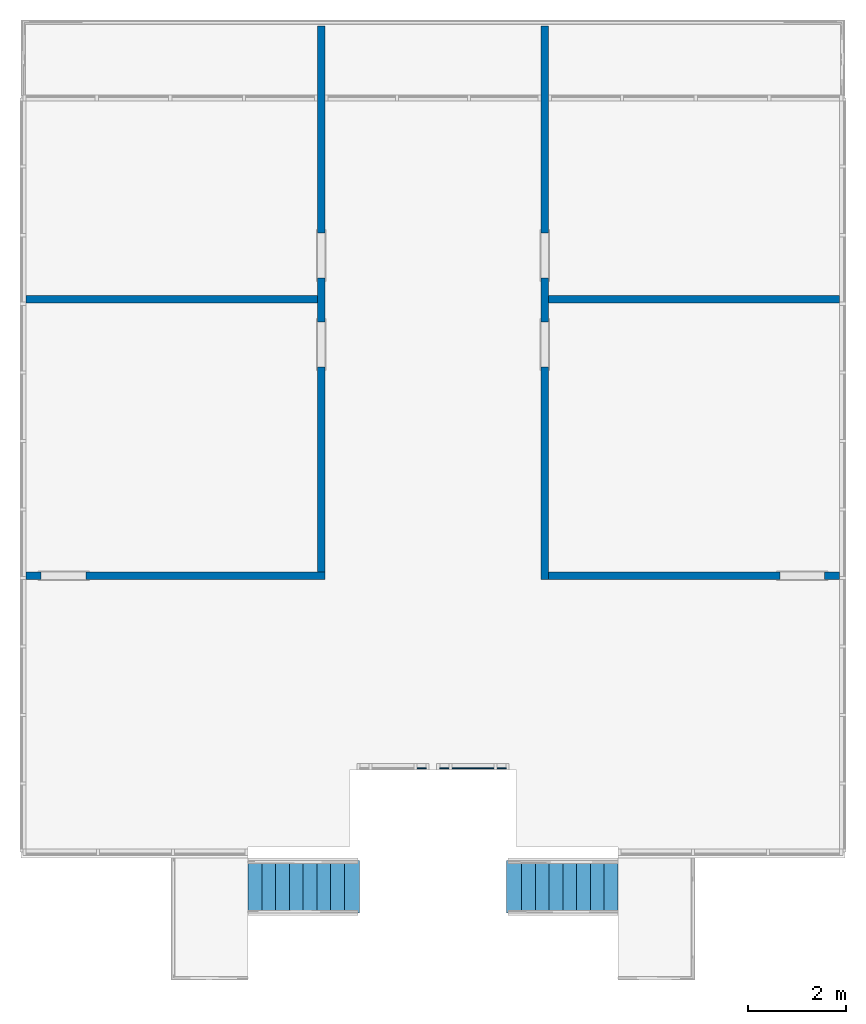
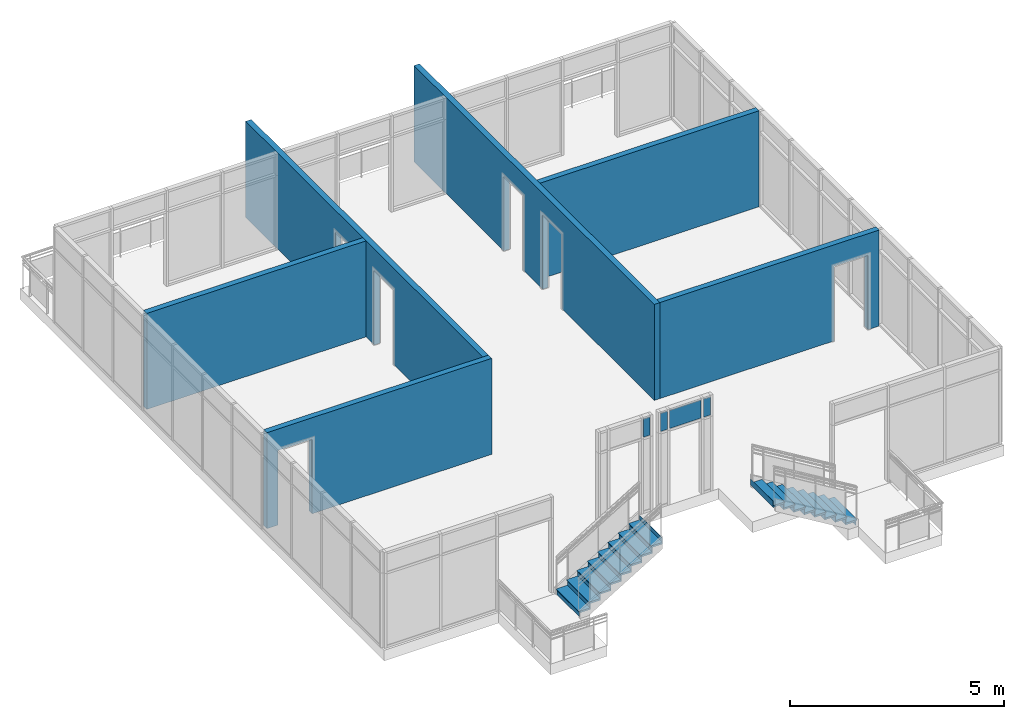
# One storey, part 7 of 11: 6 walls, 4 plates, 2 stair flights, 6 openings, 3 elements without a shape of their own.
"""IFC2X3 building model written with IfcOpenShell, lengths in feet."""

from ifc_helpers import new_model, entity, si_unit, converted_unit, derived_unit, direction, frame, frame_2d, origin, origin_2d_with_axis, place, context, subcontext, project, spatial, polyline, rectangle, outline, extrude, source, transform, mapped, material, layer, layer_set, layer_usage, type_object, type_shapes, element, aggregate, save


model = new_model("IFC2X3")

# Units and contexts
model_context = context("Model", 3, precision=0.0001, world=origin(), true_north=direction((6.12303176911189e-17, 1.0)))
body_context = subcontext(model_context, "Body", "Model", "MODEL_VIEW")
ifc_project = project(units=[converted_unit("LENGTHUNIT", "FOOT", entity("IfcRatioMeasure", 0.3048), si_unit("LENGTHUNIT", "METRE"), dimensions=[1, 0, 0, 0, 0, 0, 0]), converted_unit("AREAUNIT", "SQUARE FOOT", entity("IfcRatioMeasure", 0.09290304), si_unit("AREAUNIT", "SQUARE_METRE"), dimensions=[2, 0, 0, 0, 0, 0, 0]), converted_unit("VOLUMEUNIT", "CUBIC FOOT", entity("IfcRatioMeasure", 0.028316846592), si_unit("VOLUMEUNIT", "CUBIC_METRE"), dimensions=[3, 0, 0, 0, 0, 0, 0]), converted_unit("PLANEANGLEUNIT", "DEGREE", entity("IfcRatioMeasure", 0.0174532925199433), si_unit("PLANEANGLEUNIT", "RADIAN"), dimensions=[0, 0, 0, 0, 0, 0, 0]), si_unit("MASSUNIT", "GRAM", prefix="KILO"), derived_unit("MASSDENSITYUNIT", [(si_unit("MASSUNIT", "GRAM", prefix="KILO"), 1), (si_unit("LENGTHUNIT", "METRE"), -3)]), si_unit("TIMEUNIT", "SECOND"), si_unit("FREQUENCYUNIT", "HERTZ"), si_unit("THERMODYNAMICTEMPERATUREUNIT", "DEGREE_CELSIUS"), derived_unit("THERMALTRANSMITTANCEUNIT", [(si_unit("MASSUNIT", "GRAM", prefix="KILO"), 1), (si_unit("THERMODYNAMICTEMPERATUREUNIT", "KELVIN"), -1), (si_unit("TIMEUNIT", "SECOND"), -3)]), derived_unit("VOLUMETRICFLOWRATEUNIT", [(si_unit("LENGTHUNIT", "METRE"), 3), (si_unit("TIMEUNIT", "SECOND"), -1)]), si_unit("ELECTRICCURRENTUNIT", "AMPERE"), si_unit("ELECTRICVOLTAGEUNIT", "VOLT"), si_unit("POWERUNIT", "WATT"), si_unit("FORCEUNIT", "NEWTON"), si_unit("ILLUMINANCEUNIT", "LUX"), si_unit("LUMINOUSFLUXUNIT", "LUMEN"), si_unit("LUMINOUSINTENSITYUNIT", "CANDELA"), derived_unit("USERDEFINED", [(si_unit("MASSUNIT", "GRAM", prefix="KILO"), -1), (si_unit("LENGTHUNIT", "METRE"), -2), (si_unit("TIMEUNIT", "SECOND"), 3), (si_unit("LUMINOUSFLUXUNIT", "LUMEN"), 1)]), derived_unit("LINEARVELOCITYUNIT", [(si_unit("LENGTHUNIT", "METRE"), 1), (si_unit("TIMEUNIT", "SECOND"), -1)]), si_unit("PRESSUREUNIT", "PASCAL"), derived_unit("USERDEFINED", [(si_unit("LENGTHUNIT", "METRE"), -2), (si_unit("MASSUNIT", "GRAM", prefix="KILO"), 1), (si_unit("TIMEUNIT", "SECOND"), -2)])], contexts=[model_context])

# Site, building, storey
site_placement = place(None, origin())
site = spatial("IfcSite", under=ifc_project, at=site_placement, Name="Default", CompositionType="ELEMENT")
building_placement = place(site_placement, origin())
building = spatial("IfcBuilding", under=site, at=building_placement, CompositionType="ELEMENT")
storey_placement = place(building_placement, frame((0.0, 0.0, 10.0)))
storey = spatial("IfcBuildingStorey", under=building, at=storey_placement, Name="Level 2", CompositionType="ELEMENT", Elevation=9.99999999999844)

# Curtain wall, plate
curtain_wall_type = type_object("IfcCurtainWallType", Name="Curtain Wall:Storefront 2", PredefinedType="NOTDEFINED")
curtain_wall_1_placement = place(storey_placement, frame((0.0, 0.0, -10.0)))
curtain_wall_1 = element("IfcCurtainWall", 1, at=curtain_wall_1_placement, inside=storey, type_object=curtain_wall_type, Name="Curtain Wall:Storefront 2", ObjectType="Curtain Wall:Storefront 2")
ifc_material_1 = material(Name="<Unnamed>")
ifc_layer_1 = layer(ifc_material_1, 0.0833333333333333)
ifc_layer_set_1 = layer_set([ifc_layer_1], Name="Curtain Wall:Storefront")
ifc_layer_usage_1 = layer_usage(ifc_layer_set_1, "AXIS3", "POSITIVE", 0.104166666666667)
plate_type_1 = type_object("IfcPlateType", Name="Glazed", PredefinedType="CURTAIN_PANEL", material=ifc_layer_set_1)
shared_shape_1 = source(origin(), body_context, "Body", "SweptSolid", [
    extrude(rectangle(XDim=0.0833333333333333, YDim=0.604166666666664, at=frame_2d((-6.93889390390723e-18, -2.77555756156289e-17), x_axis=(1.0, 0.0))), frame((0.0, 0.104166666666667, 0.0), z_axis=(0.0, 0.0, 1.0), x_axis=(0.0, 1.0, 0.0)), (0.0, 0.0, 1.0), 1.6875),
])
type_shapes(plate_type_1, [shared_shape_1])
plate_1_placement = place(curtain_wall_1_placement, frame((-34.7522461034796, -1.23280792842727, 17.1041666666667), z_axis=(0.0, 0.0, 1.0), x_axis=(-1.0, 0.0, 0.0)))
plate_1 = element("IfcPlate", 2, at=plate_1_placement, type_object=plate_type_1, material=ifc_layer_usage_1, Name="System Panel:Glazed", ObjectType="Glazed", context=body_context, shape_type="MappedRepresentation", body=[
    mapped(shared_shape_1, transform((0.0, 0.0, 0.0), scale=1.0)),
])
aggregate(curtain_wall_1, [plate_1])

# Curtain wall, plates
curtain_wall_2_placement = place(storey_placement, frame((0.0, 0.0, -10.0)))
curtain_wall_2 = element("IfcCurtainWall", 3, at=curtain_wall_2_placement, inside=storey, type_object=curtain_wall_type, Name="Curtain Wall:Storefront 2", ObjectType="Curtain Wall:Storefront 2")
ifc_layer_usage_2 = layer_usage(ifc_layer_set_1, "AXIS3", "POSITIVE", 0.104166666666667)
plate_2_placement = place(curtain_wall_2_placement, frame((-29.4189127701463, -1.23280792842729, 17.1041666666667), z_axis=(0.0, 0.0, 1.0), x_axis=(-1.0, 0.0, 0.0)))
plate_2 = element("IfcPlate", 4, at=plate_2_placement, type_object=plate_type_1, material=ifc_layer_usage_2, Name="System Panel:Glazed", ObjectType="Glazed", context=body_context, shape_type="MappedRepresentation", body=[
    mapped(shared_shape_1, transform((0.0, 0.0, 0.0), scale=1.0)),
])
ifc_layer_usage_3 = layer_usage(ifc_layer_set_1, "AXIS3", "POSITIVE", 0.104166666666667)
plate_3_placement = place(curtain_wall_2_placement, frame((-33.2314127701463, -1.23280792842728, 17.1041666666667), z_axis=(0.0, 0.0, 1.0), x_axis=(-1.0, 0.0, 0.0)))
plate_3 = element("IfcPlate", 5, at=plate_3_placement, type_object=plate_type_1, material=ifc_layer_usage_3, Name="System Panel:Glazed", ObjectType="Glazed", context=body_context, shape_type="MappedRepresentation", body=[
    mapped(shared_shape_1, transform((0.0, 0.0, 0.0), scale=1.0)),
])
ifc_layer_usage_4 = layer_usage(ifc_layer_set_1, "AXIS3", "POSITIVE", 0.104166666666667)
plate_type_2 = type_object("IfcPlateType", Name="Glazed", PredefinedType="CURTAIN_PANEL", material=ifc_layer_set_1)
shared_shape_2 = source(origin(), body_context, "Body", "SweptSolid", [
    extrude(rectangle(XDim=0.0833333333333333, YDim=2.79166666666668, at=frame_2d((-6.93889390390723e-18, 0.0), x_axis=(1.0, 0.0))), frame((0.0, 0.104166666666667, 0.0), z_axis=(0.0, 0.0, 1.0), x_axis=(0.0, 1.0, 0.0)), (0.0, 0.0, 1.0), 1.6875),
])
type_shapes(plate_type_2, [shared_shape_2])
plate_4_placement = place(curtain_wall_2_placement, frame((-31.3251627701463, -1.23280792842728, 17.1041666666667), z_axis=(0.0, 0.0, 1.0), x_axis=(-1.0, 0.0, 0.0)))
plate_4 = element("IfcPlate", 6, at=plate_4_placement, type_object=plate_type_2, material=ifc_layer_usage_4, Name="System Panel:Glazed", ObjectType="Glazed", context=body_context, shape_type="MappedRepresentation", body=[
    mapped(shared_shape_2, transform((0.0, 0.0, 0.0), scale=1.0)),
])
aggregate(curtain_wall_2, [plate_2, plate_4, plate_3])

# Wall, openings
ifc_material_2 = material(Name="Default Wall")
ifc_layer_2 = layer(ifc_material_2, 0.5)
ifc_layer_set_2 = layer_set([ifc_layer_2], Name="Basic Wall:Generic - 6\"")
ifc_layer_usage_5 = layer_usage(ifc_layer_set_2, "AXIS2", "NEGATIVE", 0.25)
wall_type = type_object("IfcWallType", Name="Basic Wall:Generic - 6\"", PredefinedType="STANDARD", material=ifc_layer_set_2)
wall_1_placement = place(storey_placement, frame((-41.4463748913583, 48.1421920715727, 0.0), z_axis=(0.0, 0.0, 1.0), x_axis=(0.0, -1.0, 0.0)))
wall_1 = element("IfcWallStandardCase", 7, at=wall_1_placement, inside=storey, type_object=wall_type, material=ifc_layer_usage_5, Name="Basic Wall:Generic - 6\"", ObjectType="Basic Wall:Generic - 6\":219", context=body_context, shape_type="SweptSolid", body=[
    extrude(rectangle(XDim=36.4027777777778, YDim=0.5, at=frame_2d((18.2013888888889, 7.49400541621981e-16), x_axis=(-1.0, 0.0))), origin(), (0.0, 0.0, 1.0), 9.0),
])
opening_1_placement = place(wall_1_placement, origin())
element("IfcOpeningElement", 8, at=opening_1_placement, cuts=wall_1, Name="Basic Wall:Generic - 6\"", ObjectType="Opening", context=body_context, shape_type="SweptSolid", body=[
    extrude(rectangle(XDim=7.0, YDim=3.0, at=frame_2d((-8.88178419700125e-16, 0.0), x_axis=(1.0, 0.0))), frame((21.2222222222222, -4.75, 3.50000000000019), z_axis=(0.0, 1.0, 0.0), x_axis=(0.0, 0.0, -1.0)), (0.0, 0.0, 1.0), 10.0),
])
opening_2_placement = place(wall_1_placement, origin())
element("IfcOpeningElement", 9, at=opening_2_placement, cuts=wall_1, Name="Basic Wall:Generic - 6\"", ObjectType="Opening", context=body_context, shape_type="SweptSolid", body=[
    extrude(rectangle(XDim=7.0, YDim=3.0, at=frame_2d((-8.88178419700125e-16, 0.0), x_axis=(1.0, 0.0))), frame((15.2916666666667, -4.74999999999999, 3.50000000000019), z_axis=(0.0, 1.0, 0.0), x_axis=(0.0, 0.0, -1.0)), (0.0, 0.0, 1.0), 10.0),
])

ifc_layer_usage_6 = layer_usage(ifc_layer_set_2, "AXIS2", "NEGATIVE", 0.25)
wall_2_placement = place(storey_placement, frame((-26.5372839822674, 48.1421920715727, 0.0), z_axis=(0.0, 0.0, 1.0), x_axis=(0.0, -1.0, 0.0)))
wall_2 = element("IfcWallStandardCase", 10, at=wall_2_placement, inside=storey, type_object=wall_type, material=ifc_layer_usage_6, Name="Basic Wall:Generic - 6\"", ObjectType="Basic Wall:Generic - 6\":219", context=body_context, shape_type="SweptSolid", body=[
    extrude(rectangle(XDim=36.9027777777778, YDim=0.5, at=frame_2d((18.4513888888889, -6.66133814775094e-16), x_axis=(-1.0, 0.0))), origin(), (0.0, 0.0, 1.0), 9.0),
])
opening_3_placement = place(wall_2_placement, origin())
element("IfcOpeningElement", 11, at=opening_3_placement, cuts=wall_2, Name="Basic Wall:Generic - 6\"", ObjectType="Opening", context=body_context, shape_type="SweptSolid", body=[
    extrude(rectangle(XDim=7.0, YDim=3.0, at=frame_2d((0.0, -8.88178419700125e-16), x_axis=(0.0, 1.0))), frame((15.2916666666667, -5.25, 3.50000000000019), z_axis=(0.0, 1.0, 0.0), x_axis=(1.0, 0.0, 0.0)), (0.0, 0.0, 1.0), 10.0),
])
opening_4_placement = place(wall_2_placement, origin())
element("IfcOpeningElement", 12, at=opening_4_placement, cuts=wall_2, Name="Basic Wall:Generic - 6\"", ObjectType="Opening", context=body_context, shape_type="SweptSolid", body=[
    extrude(rectangle(XDim=7.0, YDim=3.0, at=frame_2d((-8.88178419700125e-16, 0.0), x_axis=(1.0, 0.0))), frame((21.2222222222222, -4.75, 3.50000000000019), z_axis=(0.0, 1.0, 0.0), x_axis=(0.0, 0.0, -1.0)), (0.0, 0.0, 1.0), 10.0),
])

# Walls
ifc_layer_usage_7 = layer_usage(ifc_layer_set_2, "AXIS2", "NEGATIVE", 0.25)
wall_3_placement = place(storey_placement, frame((-6.86682943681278, 29.9199698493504, 0.0), z_axis=(0.0, 0.0, 1.0), x_axis=(-1.0, 0.0, 0.0)))
element("IfcWallStandardCase", 13, at=wall_3_placement, inside=storey, type_object=wall_type, material=ifc_layer_usage_7, Name="Basic Wall:Generic - 6\"", ObjectType="Basic Wall:Generic - 6\":219", context=body_context, shape_type="SweptSolid", body=[
    extrude(rectangle(XDim=19.4204545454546, YDim=0.5, at=frame_2d((9.71022727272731, -4.02455846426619e-16), x_axis=(-1.0, 0.0))), origin(), (0.0, 0.0, 1.0), 9.0),
])
ifc_layer_usage_8 = layer_usage(ifc_layer_set_2, "AXIS2", "NEGATIVE", 0.25)
wall_4_placement = place(storey_placement, frame((-41.6963748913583, 29.9199698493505, 0.0), z_axis=(0.0, 0.0, 1.0), x_axis=(-1.0, 0.0, 0.0)))
element("IfcWallStandardCase", 14, at=wall_4_placement, inside=storey, type_object=wall_type, material=ifc_layer_usage_8, Name="Basic Wall:Generic - 6\"", ObjectType="Basic Wall:Generic - 6\":219", context=body_context, shape_type="SweptSolid", body=[
    extrude(rectangle(XDim=19.4204545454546, YDim=0.5, at=frame_2d((9.7102272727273, -4.02455846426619e-16), x_axis=(-1.0, 0.0))), origin(), (0.0, 0.0, 1.0), 9.0),
])

# Wall, opening
ifc_layer_usage_9 = layer_usage(ifc_layer_set_2, "AXIS2", "NEGATIVE", 0.25)
wall_5_placement = place(storey_placement, frame((-61.1168294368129, 11.489414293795, 0.0)))
wall_5 = element("IfcWallStandardCase", 15, at=wall_5_placement, inside=storey, type_object=wall_type, material=ifc_layer_usage_9, Name="Basic Wall:Generic - 6\"", ObjectType="Basic Wall:Generic - 6\":219", context=body_context, shape_type="SweptSolid", body=[
    extrude(rectangle(XDim=19.9204545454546, YDim=0.5, at=frame_2d((9.96022727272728, 4.16333634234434e-16), x_axis=(-1.0, 0.0))), origin(), (0.0, 0.0, 1.0), 9.0),
])
opening_5_placement = place(wall_5_placement, origin())
element("IfcOpeningElement", 16, at=opening_5_placement, cuts=wall_5, Name="Basic Wall:Generic - 6\"", ObjectType="Opening", context=body_context, shape_type="SweptSolid", body=[
    extrude(rectangle(XDim=7.0, YDim=3.0, at=frame_2d((-8.88178419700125e-16, 0.0), x_axis=(1.0, 0.0))), frame((2.50000000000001, -4.75, 3.50000000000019), z_axis=(0.0, 1.0, 0.0), x_axis=(0.0, 0.0, -1.0)), (0.0, 0.0, 1.0), 10.0),
])

ifc_layer_usage_10 = layer_usage(ifc_layer_set_2, "AXIS2", "NEGATIVE", 0.25)
wall_6_placement = place(storey_placement, frame((-6.86682943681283, 11.4894142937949, 0.0), z_axis=(0.0, 0.0, 1.0), x_axis=(-1.0, 0.0, 0.0)))
wall_6 = element("IfcWallStandardCase", 17, at=wall_6_placement, inside=storey, type_object=wall_type, material=ifc_layer_usage_10, Name="Basic Wall:Generic - 6\"", ObjectType="Basic Wall:Generic - 6\":219", context=body_context, shape_type="SweptSolid", body=[
    extrude(rectangle(XDim=19.4204545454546, YDim=0.5, at=frame_2d((9.7102272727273, -3.19189119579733e-16), x_axis=(-1.0, 0.0))), origin(), (0.0, 0.0, 1.0), 9.0),
])
opening_6_placement = place(wall_6_placement, origin())
element("IfcOpeningElement", 18, at=opening_6_placement, cuts=wall_6, Name="Basic Wall:Generic - 6\"", ObjectType="Opening", context=body_context, shape_type="SweptSolid", body=[
    extrude(rectangle(XDim=7.0, YDim=3.0, at=frame_2d((-8.88178419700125e-16, -8.88178419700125e-16), x_axis=(1.0, 0.0))), frame((2.5, -4.75, 3.50000000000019), z_axis=(0.0, 1.0, 0.0), x_axis=(0.0, 0.0, -1.0)), (0.0, 0.0, 1.0), 10.0),
])

# Stair, stair flights
stair_placement = place(storey_placement, origin())
stair = element("IfcStair", 19, at=stair_placement, inside=storey, Name="Assembled Stair:Stair", ObjectType="Assembled Stair:7\" max riser 11\" tread", ShapeType="NOTDEFINED")
stair_flight_1_placement = place(stair_placement, origin())
stair_flight_1 = element("IfcStairFlight", 20, at=stair_flight_1_placement, Name="Assembled Stair:Stair:189410 Run 1", ObjectType="Assembled Stair:7\" max riser 11\" tread", NumberOfRiser=9, NumberOfTreads=8, RiserHeight=0.555555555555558, TreadLength=0.916666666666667, context=body_context, shape_type="SweptSolid", body=[
    extrude(outline(polyline([(-0.0902777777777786, -0.638888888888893), (0.0763888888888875, -0.638888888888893), (0.0763888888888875, 0.277777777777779), (0.0555555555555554, 0.277777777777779), (-0.0277777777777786, 0.361111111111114), (-0.0902777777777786, 0.361111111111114), (-0.0902777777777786, -0.638888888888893)])), frame((-45.9640516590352, -11.0036412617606, 0.46527777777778), z_axis=(0.0, 1.0, 0.0), x_axis=(0.0, 0.0, -1.0)), (0.0, 0.0, 1.0), 3.5),
    extrude(rectangle(XDim=3.5, YDim=0.0208333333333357, at=frame_2d((0.0, 3.5527136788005e-15), x_axis=(1.0, 0.0))), frame((-46.2314127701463, -9.25364126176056, 0.0), z_axis=(0.0, 0.0, 1.0), x_axis=(0.0, 1.0, 0.0)), (0.0, 0.0, 1.0), 0.388888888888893),
    extrude(rectangle(XDim=3.5, YDim=0.0208333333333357, at=origin_2d_with_axis()), frame((-45.3147461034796, -9.25364126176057, 0.388888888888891), z_axis=(0.0, 0.0, 1.0), x_axis=(0.0, 1.0, 0.0)), (0.0, 0.0, 1.0), 0.555555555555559),
    extrude(outline(polyline([(-0.0902777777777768, -0.638888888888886), (0.0763888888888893, -0.638888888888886), (0.0763888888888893, 0.277777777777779), (0.0555555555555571, 0.277777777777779), (-0.0277777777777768, 0.361111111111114), (-0.0902777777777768, 0.361111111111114), (-0.0902777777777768, -0.638888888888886)])), frame((-45.0473849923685, -11.0036412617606, 1.02083333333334), z_axis=(0.0, 1.0, 0.0), x_axis=(0.0, 0.0, -1.0)), (0.0, 0.0, 1.0), 3.5),
    extrude(rectangle(XDim=3.5, YDim=0.0208333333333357, at=origin_2d_with_axis()), frame((-44.398079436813, -9.25364126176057, 0.94444444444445), z_axis=(0.0, 0.0, 1.0), x_axis=(0.0, 1.0, 0.0)), (0.0, 0.0, 1.0), 0.555555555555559),
    extrude(outline(polyline([(-0.0902777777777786, -0.638888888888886), (0.0763888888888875, -0.638888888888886), (0.0763888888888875, 0.277777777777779), (0.0555555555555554, 0.277777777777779), (-0.0277777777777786, 0.361111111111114), (-0.0902777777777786, 0.361111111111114), (-0.0902777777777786, -0.638888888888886)])), frame((-44.1307183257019, -11.0036412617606, 1.5763888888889), z_axis=(0.0, 1.0, 0.0), x_axis=(0.0, 0.0, -1.0)), (0.0, 0.0, 1.0), 3.5),
    extrude(rectangle(XDim=3.5, YDim=0.0208333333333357, at=origin_2d_with_axis()), frame((-43.4814127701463, -9.25364126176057, 1.50000000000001), z_axis=(0.0, 0.0, 1.0), x_axis=(0.0, 1.0, 0.0)), (0.0, 0.0, 1.0), 0.555555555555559),
    extrude(outline(polyline([(-0.0902777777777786, -0.638888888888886), (0.0763888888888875, -0.638888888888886), (0.0763888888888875, 0.277777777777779), (0.0555555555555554, 0.277777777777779), (-0.0277777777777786, 0.361111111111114), (-0.0902777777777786, 0.361111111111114), (-0.0902777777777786, -0.638888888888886)])), frame((-43.2140516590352, -11.0036412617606, 2.13194444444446), z_axis=(0.0, 1.0, 0.0), x_axis=(0.0, 0.0, -1.0)), (0.0, 0.0, 1.0), 3.5),
    extrude(rectangle(XDim=3.5, YDim=0.0208333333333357, at=origin_2d_with_axis()), frame((-42.5647461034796, -9.25364126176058, 2.05555555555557), z_axis=(0.0, 0.0, 1.0), x_axis=(0.0, 1.0, 0.0)), (0.0, 0.0, 1.0), 0.555555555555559),
    extrude(outline(polyline([(-0.0902777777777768, -0.638888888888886), (0.0763888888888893, -0.638888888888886), (0.0763888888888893, 0.277777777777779), (0.0555555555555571, 0.277777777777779), (-0.0277777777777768, 0.361111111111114), (-0.0902777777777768, 0.361111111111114), (-0.0902777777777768, -0.638888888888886)])), frame((-42.2973849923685, -11.0036412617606, 2.68750000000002), z_axis=(0.0, 1.0, 0.0), x_axis=(0.0, 0.0, -1.0)), (0.0, 0.0, 1.0), 3.5),
    extrude(rectangle(XDim=3.5, YDim=0.0208333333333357, at=origin_2d_with_axis()), frame((-41.648079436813, -9.25364126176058, 2.61111111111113), z_axis=(0.0, 0.0, 1.0), x_axis=(0.0, 1.0, 0.0)), (0.0, 0.0, 1.0), 0.555555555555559),
    extrude(outline(polyline([(-0.0902777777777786, -0.638888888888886), (0.0763888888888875, -0.638888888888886), (0.0763888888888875, 0.277777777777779), (0.0555555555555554, 0.277777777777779), (-0.0277777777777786, 0.361111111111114), (-0.0902777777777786, 0.361111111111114), (-0.0902777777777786, -0.638888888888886)])), frame((-41.3807183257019, -11.0036412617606, 3.24305555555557), z_axis=(0.0, 1.0, 0.0), x_axis=(0.0, 0.0, -1.0)), (0.0, 0.0, 1.0), 3.5),
    extrude(rectangle(XDim=3.5, YDim=0.0208333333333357, at=origin_2d_with_axis()), frame((-40.7314127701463, -9.25364126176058, 3.16666666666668), z_axis=(0.0, 0.0, 1.0), x_axis=(0.0, 1.0, 0.0)), (0.0, 0.0, 1.0), 0.555555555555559),
    extrude(outline(polyline([(-0.0902777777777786, -0.638888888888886), (0.0763888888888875, -0.638888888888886), (0.0763888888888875, 0.277777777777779), (0.0555555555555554, 0.277777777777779), (-0.0277777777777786, 0.361111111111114), (-0.0902777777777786, 0.361111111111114), (-0.0902777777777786, -0.638888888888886)])), frame((-40.4640516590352, -11.0036412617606, 3.79861111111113), z_axis=(0.0, 1.0, 0.0), x_axis=(0.0, 0.0, -1.0)), (0.0, 0.0, 1.0), 3.5),
    extrude(rectangle(XDim=3.5, YDim=0.0208333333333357, at=origin_2d_with_axis()), frame((-39.8147461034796, -9.25364126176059, 3.72222222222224), z_axis=(0.0, 0.0, 1.0), x_axis=(0.0, 1.0, 0.0)), (0.0, 0.0, 1.0), 0.555555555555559),
    extrude(rectangle(XDim=3.5, YDim=0.0208333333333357, at=frame_2d((0.0, -3.5527136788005e-15), x_axis=(1.0, 0.0))), frame((-38.898079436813, -9.25364126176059, 4.2777777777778), z_axis=(0.0, 0.0, 1.0), x_axis=(0.0, 1.0, 0.0)), (0.0, 0.0, 1.0), 0.555555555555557),
    extrude(outline(polyline([(-0.0902777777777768, -0.638888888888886), (0.0763888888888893, -0.638888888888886), (0.0763888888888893, 0.277777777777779), (0.0555555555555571, 0.277777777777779), (-0.0277777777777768, 0.361111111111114), (-0.0902777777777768, 0.361111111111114), (-0.0902777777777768, -0.638888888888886)])), frame((-39.5473849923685, -11.0036412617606, 4.35416666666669), z_axis=(0.0, 1.0, 0.0), x_axis=(0.0, 0.0, -1.0)), (0.0, 0.0, 1.0), 3.50000000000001),
])
stair_flight_2_placement = place(stair_placement, origin())
stair_flight_2 = element("IfcStairFlight", 21, at=stair_flight_2_placement, Name="Assembled Stair:Stair:189410 Run 2", ObjectType="Assembled Stair:7\" max riser 11\" tread", NumberOfRiser=9, NumberOfTreads=8, RiserHeight=0.555555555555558, TreadLength=0.916666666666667, context=body_context, shape_type="SweptSolid", body=[
    extrude(outline(polyline([(-0.0902777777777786, -0.361111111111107), (-0.0277777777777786, -0.361111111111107), (0.0555555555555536, -0.277777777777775), (0.0763888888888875, -0.277777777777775), (0.0763888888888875, 0.638888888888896), (-0.0902777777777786, 0.638888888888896), (-0.0902777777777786, -0.361111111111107)])), frame((-22.0196072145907, -11.0036412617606, 0.46527777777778), z_axis=(0.0, 1.0, 0.0), x_axis=(0.0, 0.0, -1.0)), (0.0, 0.0, 1.0), 3.5),
    extrude(rectangle(XDim=3.5, YDim=0.0208333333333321, at=frame_2d((0.0, -1.77635683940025e-15), x_axis=(1.0, 0.0))), frame((-21.7522461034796, -9.25364126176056, 0.0), z_axis=(0.0, 0.0, 1.0), x_axis=(0.0, -1.0, 0.0)), (0.0, 0.0, 1.0), 0.388888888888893),
    extrude(rectangle(XDim=3.5, YDim=0.0208333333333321, at=frame_2d((0.0, 1.77635683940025e-15), x_axis=(1.0, 0.0))), frame((-22.6689127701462, -9.25364126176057, 0.388888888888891), z_axis=(0.0, 0.0, 1.0), x_axis=(0.0, -1.0, 0.0)), (0.0, 0.0, 1.0), 0.555555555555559),
    extrude(outline(polyline([(-0.0902777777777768, -0.361111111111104), (-0.0277777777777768, -0.361111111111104), (0.0555555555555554, -0.277777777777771), (0.0763888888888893, -0.277777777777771), (0.0763888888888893, 0.638888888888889), (-0.0902777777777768, 0.638888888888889), (-0.0902777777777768, -0.361111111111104)])), frame((-22.9362738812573, -11.0036412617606, 1.02083333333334), z_axis=(0.0, 1.0, 0.0), x_axis=(0.0, 0.0, -1.0)), (0.0, 0.0, 1.0), 3.5),
    extrude(rectangle(XDim=3.5, YDim=0.0208333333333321, at=frame_2d((0.0, 1.77635683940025e-15), x_axis=(1.0, 0.0))), frame((-23.5855794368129, -9.25364126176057, 0.94444444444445), z_axis=(0.0, 0.0, 1.0), x_axis=(0.0, -1.0, 0.0)), (0.0, 0.0, 1.0), 0.555555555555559),
    extrude(outline(polyline([(-0.0902777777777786, -0.361111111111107), (-0.0277777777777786, -0.361111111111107), (0.0555555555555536, -0.277777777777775), (0.0763888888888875, -0.277777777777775), (0.0763888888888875, 0.638888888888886), (-0.0902777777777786, 0.638888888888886), (-0.0902777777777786, -0.361111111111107)])), frame((-23.852940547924, -11.0036412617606, 1.5763888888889), z_axis=(0.0, 1.0, 0.0), x_axis=(0.0, 0.0, -1.0)), (0.0, 0.0, 1.0), 3.5),
    extrude(rectangle(XDim=3.5, YDim=0.0208333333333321, at=frame_2d((0.0, 1.77635683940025e-15), x_axis=(1.0, 0.0))), frame((-24.5022461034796, -9.25364126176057, 1.50000000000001), z_axis=(0.0, 0.0, 1.0), x_axis=(0.0, -1.0, 0.0)), (0.0, 0.0, 1.0), 0.555555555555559),
    extrude(outline(polyline([(-0.0902777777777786, -0.361111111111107), (-0.0277777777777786, -0.361111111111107), (0.0555555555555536, -0.277777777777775), (0.0763888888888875, -0.277777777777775), (0.0763888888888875, 0.638888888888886), (-0.0902777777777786, 0.638888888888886), (-0.0902777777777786, -0.361111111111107)])), frame((-24.7696072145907, -11.0036412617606, 2.13194444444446), z_axis=(0.0, 1.0, 0.0), x_axis=(0.0, 0.0, -1.0)), (0.0, 0.0, 1.0), 3.5),
    extrude(rectangle(XDim=3.5, YDim=0.0208333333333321, at=frame_2d((0.0, 1.77635683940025e-15), x_axis=(1.0, 0.0))), frame((-25.4189127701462, -9.25364126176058, 2.05555555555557), z_axis=(0.0, 0.0, 1.0), x_axis=(0.0, -1.0, 0.0)), (0.0, 0.0, 1.0), 0.555555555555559),
    extrude(outline(polyline([(-0.0902777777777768, -0.361111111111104), (-0.0277777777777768, -0.361111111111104), (0.0555555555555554, -0.277777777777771), (0.0763888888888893, -0.277777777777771), (0.0763888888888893, 0.638888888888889), (-0.0902777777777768, 0.638888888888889), (-0.0902777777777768, -0.361111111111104)])), frame((-25.6862738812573, -11.0036412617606, 2.68750000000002), z_axis=(0.0, 1.0, 0.0), x_axis=(0.0, 0.0, -1.0)), (0.0, 0.0, 1.0), 3.5),
    extrude(rectangle(XDim=3.5, YDim=0.0208333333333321, at=frame_2d((0.0, 1.77635683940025e-15), x_axis=(1.0, 0.0))), frame((-26.3355794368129, -9.25364126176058, 2.61111111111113), z_axis=(0.0, 0.0, 1.0), x_axis=(0.0, -1.0, 0.0)), (0.0, 0.0, 1.0), 0.555555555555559),
    extrude(outline(polyline([(-0.0902777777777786, -0.361111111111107), (-0.0277777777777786, -0.361111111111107), (0.0555555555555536, -0.277777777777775), (0.0763888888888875, -0.277777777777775), (0.0763888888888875, 0.638888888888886), (-0.0902777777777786, 0.638888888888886), (-0.0902777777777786, -0.361111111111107)])), frame((-26.602940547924, -11.0036412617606, 3.24305555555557), z_axis=(0.0, 1.0, 0.0), x_axis=(0.0, 0.0, -1.0)), (0.0, 0.0, 1.0), 3.5),
    extrude(rectangle(XDim=3.5, YDim=0.0208333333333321, at=frame_2d((0.0, -1.77635683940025e-15), x_axis=(1.0, 0.0))), frame((-27.2522461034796, -9.25364126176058, 3.16666666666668), z_axis=(0.0, 0.0, 1.0), x_axis=(0.0, -1.0, 0.0)), (0.0, 0.0, 1.0), 0.555555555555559),
    extrude(outline(polyline([(-0.0902777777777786, -0.361111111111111), (-0.0277777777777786, -0.361111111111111), (0.0555555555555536, -0.277777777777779), (0.0763888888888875, -0.277777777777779), (0.0763888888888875, 0.638888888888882), (-0.0902777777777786, 0.638888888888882), (-0.0902777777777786, -0.361111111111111)])), frame((-27.5196072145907, -11.0036412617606, 3.79861111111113), z_axis=(0.0, 1.0, 0.0), x_axis=(0.0, 0.0, -1.0)), (0.0, 0.0, 1.0), 3.5),
    extrude(rectangle(XDim=3.5, YDim=0.0208333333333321, at=frame_2d((0.0, 1.77635683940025e-15), x_axis=(1.0, 0.0))), frame((-28.1689127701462, -9.25364126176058, 3.72222222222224), z_axis=(0.0, 0.0, 1.0), x_axis=(0.0, -1.0, 0.0)), (0.0, 0.0, 1.0), 0.555555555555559),
    extrude(rectangle(XDim=3.5, YDim=0.0208333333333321, at=frame_2d((0.0, -1.77635683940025e-15), x_axis=(1.0, 0.0))), frame((-29.0855794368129, -9.25364126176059, 4.2777777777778), z_axis=(0.0, 0.0, 1.0), x_axis=(0.0, -1.0, 0.0)), (0.0, 0.0, 1.0), 0.555555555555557),
    extrude(outline(polyline([(-0.0902777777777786, -0.361111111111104), (-0.0277777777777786, -0.361111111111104), (0.0555555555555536, -0.277777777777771), (0.0763888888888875, -0.277777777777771), (0.0763888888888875, 0.638888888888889), (-0.0902777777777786, 0.638888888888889), (-0.0902777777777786, -0.361111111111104)])), frame((-28.4362738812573, -11.0036412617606, 4.35416666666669), z_axis=(0.0, 1.0, 0.0), x_axis=(0.0, 0.0, -1.0)), (0.0, 0.0, 1.0), 3.5),
])
aggregate(stair, [stair_flight_1, stair_flight_2])

save(model, "model.ifc")
